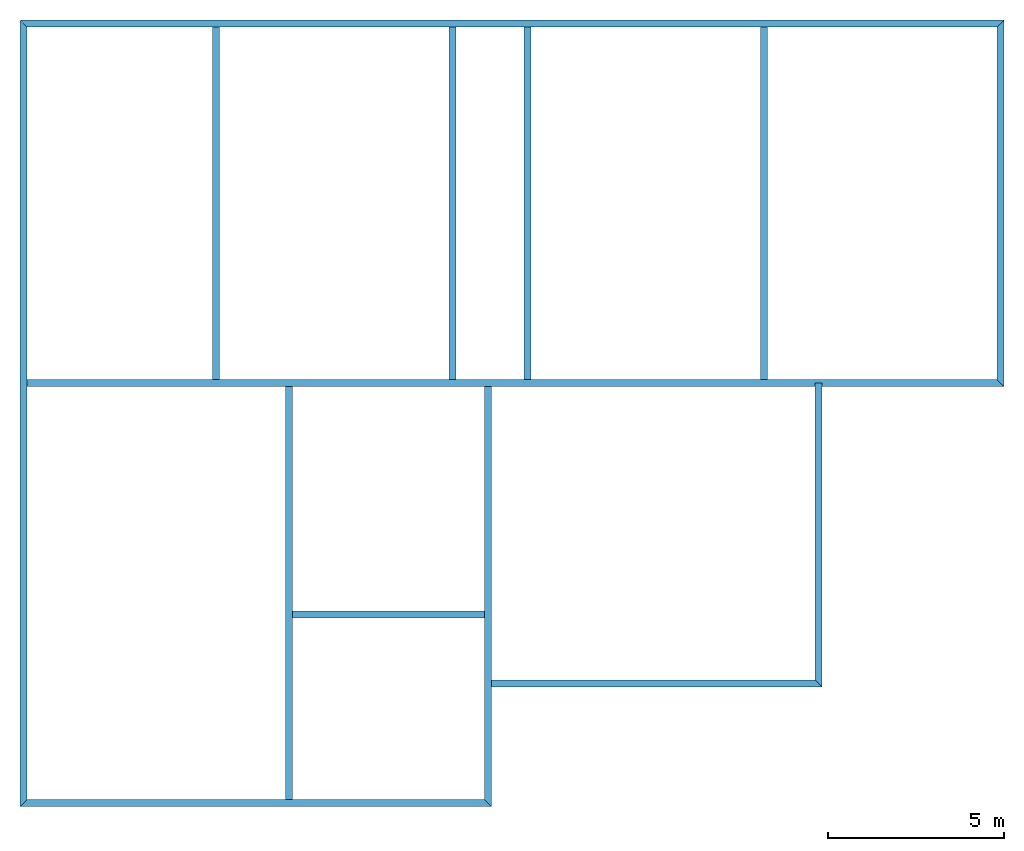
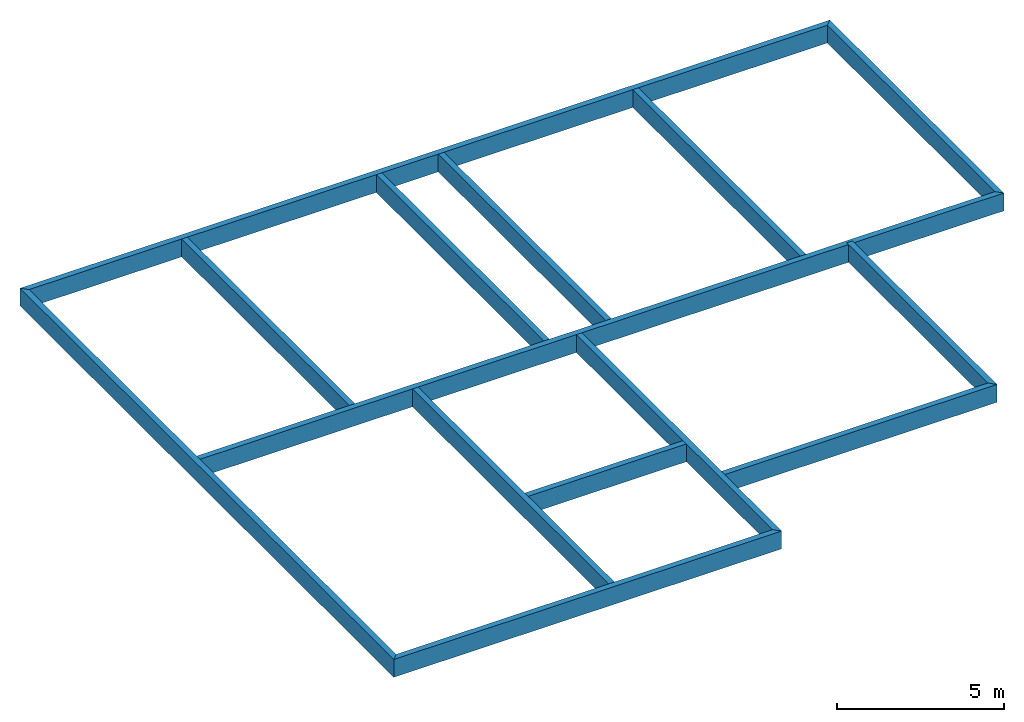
# One storey: 14 walls.
"""IFC2X3 building model written with IfcOpenShell, lengths in metres."""

from ifc_helpers import new_model, entity, si_unit, converted_unit, derived_unit, money_unit, direction, frame, origin_with_axes, place, context, subcontext, project, spatial, polyline, outline, extrude, material, layer, layer_set, layer_usage, type_object, element, save


model = new_model("IFC2X3")

# Units and contexts
model_context = context("Model", 3, precision=1e-05, world=origin_with_axes(), true_north=direction((0.0, 1.0)))
body_context = subcontext(model_context, "Body", "Model", "MODEL_VIEW")
ifc_project = project(units=[si_unit("LENGTHUNIT", "METRE"), si_unit("AREAUNIT", "SQUARE_METRE"), si_unit("VOLUMEUNIT", "CUBIC_METRE"), converted_unit("PLANEANGLEUNIT", "DEGREE", entity("IfcPlaneAngleMeasure", 0.0174532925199), si_unit("PLANEANGLEUNIT", "RADIAN"), dimensions=[0, 0, 0, 0, 0, 0, 0]), money_unit("CHF"), converted_unit("TIMEUNIT", "Year", entity("IfcTimeMeasure", 31556926.0), si_unit("TIMEUNIT", "SECOND"), dimensions=[0, 0, 1, 0, 0, 0, 0]), si_unit("MASSUNIT", "GRAM", prefix="KILO"), si_unit("THERMODYNAMICTEMPERATUREUNIT", "DEGREE_CELSIUS"), si_unit("LUMINOUSINTENSITYUNIT", "LUMEN"), si_unit("ENERGYUNIT", "JOULE", prefix="MEGA"), derived_unit("THERMALCONDUCTANCEUNIT", [(si_unit("POWERUNIT", "WATT"), 1), (si_unit("LENGTHUNIT", "METRE"), -1), (si_unit("THERMODYNAMICTEMPERATUREUNIT", "KELVIN"), -1)]), derived_unit("SPECIFICHEATCAPACITYUNIT", [(si_unit("ENERGYUNIT", "JOULE"), 1), (si_unit("MASSUNIT", "GRAM", prefix="KILO"), -1), (si_unit("THERMODYNAMICTEMPERATUREUNIT", "KELVIN"), -1)]), derived_unit("MASSDENSITYUNIT", [(si_unit("MASSUNIT", "GRAM", prefix="KILO"), 1), (si_unit("VOLUMEUNIT", "CUBIC_METRE"), -1)])], contexts=[model_context])

# Site, building, storey
site_placement = place(None, origin_with_axes())
site = spatial("IfcSite", under=ifc_project, at=site_placement, Name="Site", CompositionType="ELEMENT")
building_placement = place(site_placement, origin_with_axes())
building = spatial("IfcBuilding", under=site, at=building_placement, Name="Bâtiment", CompositionType="ELEMENT")
storey_placement = place(building_placement, frame((0.0, 0.0, -0.53), z_axis=(0.0, 0.0, 1.0), x_axis=(1.0, 0.0, 0.0)))
storey = spatial("IfcBuildingStorey", under=building, at=storey_placement, Name="Soubassements", CompositionType="ELEMENT", Elevation=-0.53)

# Walls
ifc_material = material(Name="Béton armé (Coulé)")
ifc_layer = layer(ifc_material, 0.2, ventilated="UNKNOWN")
ifc_layer_set = layer_set([ifc_layer], Name="Mur soubassement béton 20cm")
ifc_layer_usage_1 = layer_usage(ifc_layer_set, "AXIS2", "POSITIVE", -0.1)
wall_type = type_object("IfcWallType", Name="Mur soubassement béton 20cm 200", PredefinedType="NOTDEFINED")
wall_1_placement = place(storey_placement, frame((11.1494697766, 25.2201256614, -0.2), z_axis=(0.0, 0.0, 1.0), x_axis=(1.0, 0.0, 0.0)))
element("IfcWallStandardCase", 1, at=wall_1_placement, inside=storey, type_object=wall_type, material=ifc_layer_usage_1, Name="MUR_EXT-001", context=body_context, shape_type="SweptSolid", body=[
    extrude(outline(polyline([(0.1, -0.1), (27.67, -0.1), (27.87, 0.1), (-0.1, 0.1), (0.1, -0.1)])), origin_with_axes(), (0.0, 0.0, 1.0), 0.65),
])
ifc_layer_usage_2 = layer_usage(ifc_layer_set, "AXIS2", "POSITIVE", -0.1)
wall_2_placement = place(storey_placement, frame((38.9194697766, 25.2201256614, -0.2), z_axis=(0.0, 0.0, 1.0), x_axis=(0.0, -1.0, 0.0)))
element("IfcWallStandardCase", 2, at=wall_2_placement, inside=storey, type_object=wall_type, material=ifc_layer_usage_2, Name="MUR_EXT-002", context=body_context, shape_type="SweptSolid", body=[
    extrude(outline(polyline([(0.1, -0.1), (10.1201256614, -0.1), (10.3201256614, 0.1), (-0.1, 0.1), (0.1, -0.1)])), origin_with_axes(), (0.0, 0.0, 1.0), 0.65),
])
ifc_layer_usage_3 = layer_usage(ifc_layer_set, "AXIS2", "POSITIVE", -0.1)
wall_3_placement = place(storey_placement, frame((38.9194697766, 15.0, -0.2), z_axis=(0.0, 0.0, 1.0), x_axis=(-1.0, 0.0, 0.0)))
element("IfcWallStandardCase", 3, at=wall_3_placement, inside=storey, type_object=wall_type, material=ifc_layer_usage_3, Name="MUR_EXT-005", context=body_context, shape_type="SweptSolid", body=[
    extrude(outline(polyline([(0.1, -0.1), (27.67, -0.1), (27.67, 0.1), (-0.1, 0.1), (0.1, -0.1)])), origin_with_axes(), (0.0, 0.0, 1.0), 0.65),
])
ifc_layer_usage_4 = layer_usage(ifc_layer_set, "AXIS2", "POSITIVE", -0.1)
wall_4_placement = place(storey_placement, frame((33.7494697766, 15.0025437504, -0.2), z_axis=(0.0, 0.0, 1.0), x_axis=(0.0, -1.0, 0.0)))
element("IfcWallStandardCase", 4, at=wall_4_placement, inside=storey, type_object=wall_type, material=ifc_layer_usage_4, Name="MUR_EXT-004", context=body_context, shape_type="SweptSolid", body=[
    extrude(outline(polyline([(0.0, -0.1), (8.44241808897, -0.1), (8.64241808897, 0.1), (0.0, 0.1), (0.0, -0.1)])), origin_with_axes(), (0.0, 0.0, 1.0), 0.65),
])
ifc_layer_usage_5 = layer_usage(ifc_layer_set, "AXIS2", "POSITIVE", -0.1)
wall_5_placement = place(storey_placement, frame((33.7494697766, 6.46012566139, -0.2), z_axis=(0.0, 0.0, 1.0), x_axis=(-1.0, 0.0, 0.0)))
element("IfcWallStandardCase", 5, at=wall_5_placement, inside=storey, type_object=wall_type, material=ifc_layer_usage_5, Name="MUR_EXT-005", context=body_context, shape_type="SweptSolid", body=[
    extrude(outline(polyline([(0.1, -0.1), (9.3, -0.1), (9.3, 0.1), (-0.1, 0.1), (0.1, -0.1)])), origin_with_axes(), (0.0, 0.0, 1.0), 0.65),
])
ifc_layer_usage_6 = layer_usage(ifc_layer_set, "AXIS2", "POSITIVE", -0.1)
wall_6_placement = place(storey_placement, frame((24.3494697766, 15.0, -0.2), z_axis=(0.0, 0.0, 1.0), x_axis=(0.0, -1.0, 0.0)))
element("IfcWallStandardCase", 6, at=wall_6_placement, inside=storey, type_object=wall_type, material=ifc_layer_usage_6, Name="MUR_EXT-006", context=body_context, shape_type="SweptSolid", body=[
    extrude(outline(polyline([(0.1, -0.1), (11.8398344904, -0.1), (12.0398344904, 0.1), (0.1, 0.1), (0.1, -0.1)])), origin_with_axes(), (0.0, 0.0, 1.0), 0.65),
])
ifc_layer_usage_7 = layer_usage(ifc_layer_set, "AXIS2", "POSITIVE", -0.1)
wall_7_placement = place(storey_placement, frame((24.3494697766, 3.06016550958, -0.2), z_axis=(0.0, 0.0, 1.0), x_axis=(-1.0, 0.0, 0.0)))
element("IfcWallStandardCase", 7, at=wall_7_placement, inside=storey, type_object=wall_type, material=ifc_layer_usage_7, Name="MUR_EXT-007", context=body_context, shape_type="SweptSolid", body=[
    extrude(outline(polyline([(0.1, -0.1), (13.1, -0.1), (13.3, 0.1), (-0.1, 0.1), (0.1, -0.1)])), origin_with_axes(), (0.0, 0.0, 1.0), 0.65),
])
ifc_layer_usage_8 = layer_usage(ifc_layer_set, "AXIS2", "POSITIVE", -0.1)
wall_8_placement = place(storey_placement, frame((11.1494697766, 3.06016550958, -0.2), z_axis=(0.0, 0.0, 1.0), x_axis=(0.0, 1.0, 0.0)))
element("IfcWallStandardCase", 8, at=wall_8_placement, inside=storey, type_object=wall_type, material=ifc_layer_usage_8, Name="MUR_EXT-008", context=body_context, shape_type="SweptSolid", body=[
    extrude(outline(polyline([(0.1, -0.1), (22.0599601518, -0.1), (22.2599601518, 0.1), (-0.1, 0.1), (0.1, -0.1)])), origin_with_axes(), (0.0, 0.0, 1.0), 0.65),
])
ifc_layer_usage_9 = layer_usage(ifc_layer_set, "AXIS2", "POSITIVE", -0.1)
wall_9_placement = place(storey_placement, frame((18.6894697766, 3.06016550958, -0.2), z_axis=(0.0, 0.0, 1.0), x_axis=(0.0, 1.0, 0.0)))
element("IfcWallStandardCase", 9, at=wall_9_placement, inside=storey, type_object=wall_type, material=ifc_layer_usage_9, Name="MUR_EXT-007", context=body_context, shape_type="SweptSolid", body=[
    extrude(outline(polyline([(0.1, -0.1), (11.8398344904, -0.1), (11.8398344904, 0.1), (0.1, 0.1), (0.1, -0.1)])), origin_with_axes(), (0.0, 0.0, 1.0), 0.65),
])
ifc_layer_usage_10 = layer_usage(ifc_layer_set, "AXIS2", "POSITIVE", -0.1)
wall_10_placement = place(storey_placement, frame((16.6194697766, 25.2201256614, -0.2), z_axis=(0.0, 0.0, 1.0), x_axis=(0.0, -1.0, 0.0)))
element("IfcWallStandardCase", 10, at=wall_10_placement, inside=storey, type_object=wall_type, material=ifc_layer_usage_10, Name="MUR_EXT-007", context=body_context, shape_type="SweptSolid", body=[
    extrude(outline(polyline([(0.1, -0.1), (10.1201256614, -0.1), (10.1201256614, 0.1), (0.1, 0.1), (0.1, -0.1)])), origin_with_axes(), (0.0, 0.0, 1.0), 0.65),
])
ifc_layer_usage_11 = layer_usage(ifc_layer_set, "AXIS2", "POSITIVE", -0.1)
wall_11_placement = place(storey_placement, frame((23.3394697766, 25.2201256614, -0.2), z_axis=(0.0, 0.0, 1.0), x_axis=(0.0, -1.0, 0.0)))
element("IfcWallStandardCase", 11, at=wall_11_placement, inside=storey, type_object=wall_type, material=ifc_layer_usage_11, Name="MUR_EXT-007", context=body_context, shape_type="SweptSolid", body=[
    extrude(outline(polyline([(0.1, -0.1), (10.1201256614, -0.1), (10.1201256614, 0.1), (0.1, 0.1), (0.1, -0.1)])), origin_with_axes(), (0.0, 0.0, 1.0), 0.65),
])
ifc_layer_usage_12 = layer_usage(ifc_layer_set, "AXIS2", "POSITIVE", -0.1)
wall_12_placement = place(storey_placement, frame((25.4794697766, 25.2201256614, -0.2), z_axis=(0.0, 0.0, 1.0), x_axis=(0.0, -1.0, 0.0)))
element("IfcWallStandardCase", 12, at=wall_12_placement, inside=storey, type_object=wall_type, material=ifc_layer_usage_12, Name="MUR_EXT-007", context=body_context, shape_type="SweptSolid", body=[
    extrude(outline(polyline([(0.1, -0.1), (10.1201256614, -0.1), (10.1201256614, 0.1), (0.1, 0.1), (0.1, -0.1)])), origin_with_axes(), (0.0, 0.0, 1.0), 0.65),
])
ifc_layer_usage_13 = layer_usage(ifc_layer_set, "AXIS2", "POSITIVE", -0.1)
wall_13_placement = place(storey_placement, frame((32.1994697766, 25.2201256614, -0.2), z_axis=(0.0, 0.0, 1.0), x_axis=(0.0, -1.0, 0.0)))
element("IfcWallStandardCase", 13, at=wall_13_placement, inside=storey, type_object=wall_type, material=ifc_layer_usage_13, Name="MUR_EXT-007", context=body_context, shape_type="SweptSolid", body=[
    extrude(outline(polyline([(0.1, -0.1), (10.1201256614, -0.1), (10.1201256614, 0.1), (0.1, 0.1), (0.1, -0.1)])), origin_with_axes(), (0.0, 0.0, 1.0), 0.65),
])
ifc_layer_usage_14 = layer_usage(ifc_layer_set, "AXIS2", "POSITIVE", -0.1)
wall_14_placement = place(storey_placement, frame((18.6894697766, 8.42012566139, -0.2), z_axis=(0.0, 0.0, 1.0), x_axis=(1.0, 0.0, 0.0)))
element("IfcWallStandardCase", 14, at=wall_14_placement, inside=storey, type_object=wall_type, material=ifc_layer_usage_14, Name="MUR_EXT-007", context=body_context, shape_type="SweptSolid", body=[
    extrude(outline(polyline([(0.1, -0.1), (5.56, -0.1), (5.56, 0.1), (0.1, 0.1), (0.1, -0.1)])), origin_with_axes(), (0.0, 0.0, 1.0), 0.65),
])

save(model, "model.ifc")
